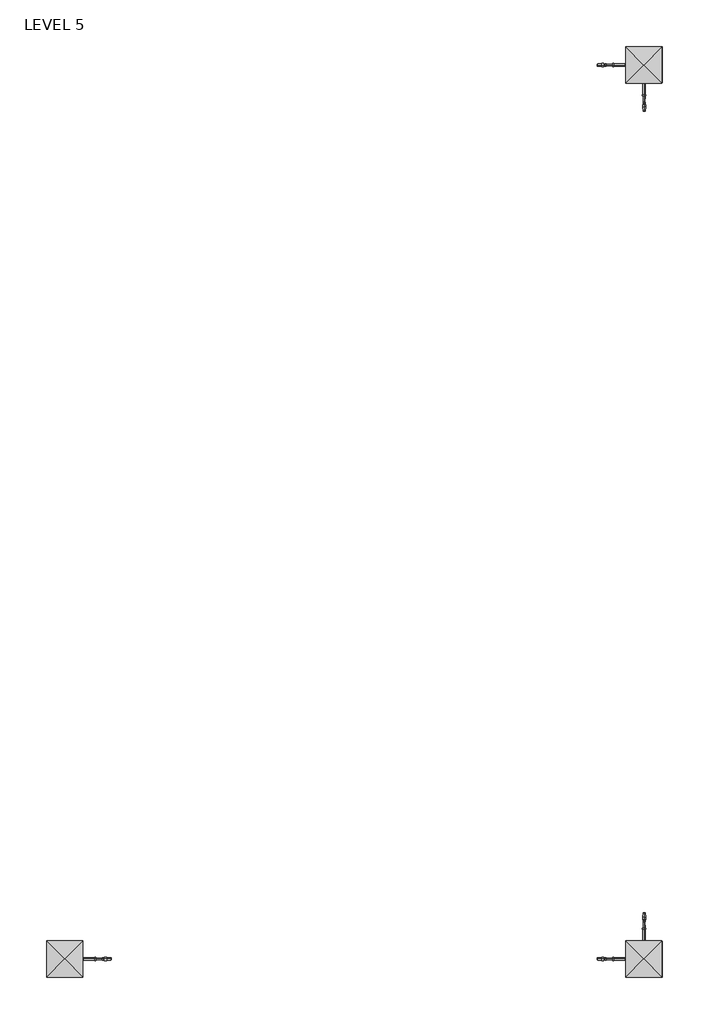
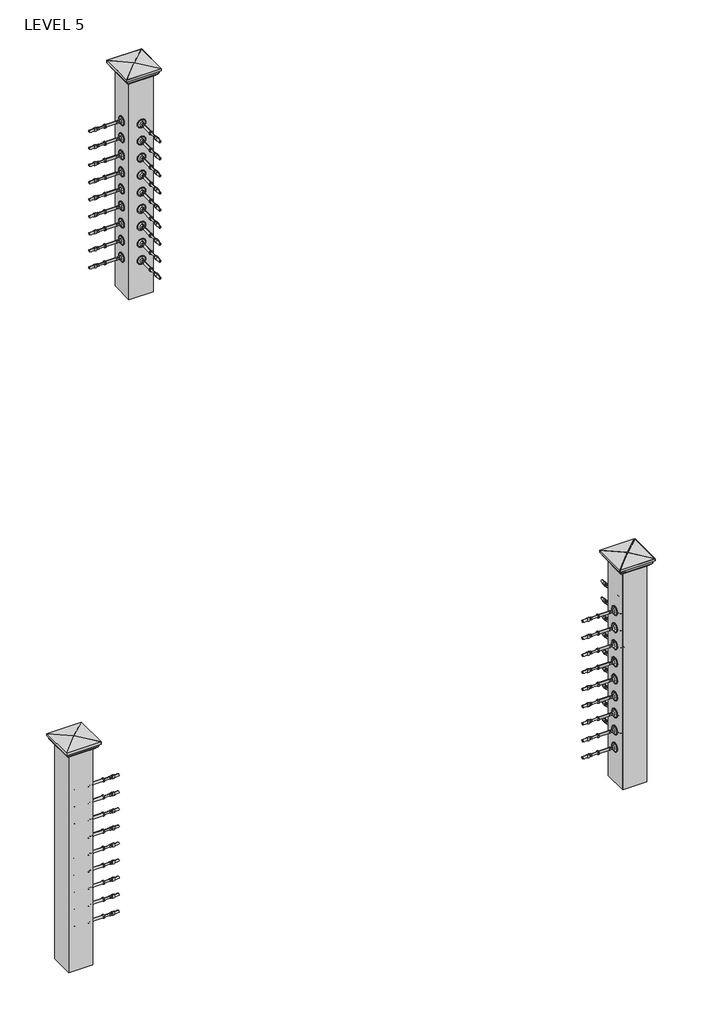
# One storey, incomplete: 5 railings.
"""IFC4 building model written with IfcOpenShell, lengths in millimetres."""

from ifc_helpers import new_model, si_unit, origin, place, context, project, spatial, transform, mapped, element, save
from components import railing_eec3041f, railing_faee88ab, railing_03d107fd, railing_2a3e4459, railing_6aa3b354, railing_0dcd67a9, railing_44fb17b9, railing_71b8d278, railing_03ae49d9, railing_364acd38, railing_e89b9eff, railing_0d87ca35, railing_b5b5f7ef, railing_fa4fd80e, railing_382be00a, railing_984af080, railing_0356c640, railing_9079da3a, railing_d52af2fc, railing_73b240f5

model = new_model("IFC4")

# Units and contexts
model_context = context("Model", 3, world=origin())
ifc_project = project(units=[si_unit("LENGTHUNIT", "METRE", prefix="MILLI")], contexts=[model_context])

# Site, building, storey
site = spatial("IfcSite", under=ifc_project)
building = spatial("IfcBuilding", under=site)
storey = spatial("IfcBuildingStorey", under=building, Name="LEVEL 5", Elevation=32511.5039062)

# Railings
placement = place(None, origin())
railing_shape = railing_eec3041f(model_context)
railing_2_shape = railing_faee88ab(model_context)
railing_3_shape = railing_03d107fd(model_context)
railing_4_shape = railing_2a3e4459(model_context)
element("IfcRailing", 1, ObjectType="RAILEASY CABLE RAILING CORNER TENSIONERS STAIR", at=placement, inside=storey, context=model_context, shape_type="MappedRepresentation", body=[
    mapped(railing_shape, transform((0.0, 0.0, 0.0), x_axis=(1.0, 0.0, 0.0), y_axis=(0.0, 1.0, 0.0), z_axis=(0.0, 0.0, 1.0))),
    mapped(railing_2_shape, transform((0.0, 0.0, 0.0), x_axis=(1.0, 0.0, 0.0), y_axis=(0.0, 1.0, 0.0), z_axis=(0.0, 0.0, 1.0))),
    mapped(railing_3_shape, transform((0.0, 0.0, 0.0), x_axis=(1.0, 0.0, 0.0), y_axis=(0.0, 1.0, 0.0), z_axis=(0.0, 0.0, 1.0))),
    mapped(railing_4_shape, transform((0.0, 0.0, 0.0), x_axis=(1.0, 0.0, 0.0), y_axis=(0.0, 1.0, 0.0), z_axis=(0.0, 0.0, 1.0))),
])
railing_5_shape = railing_6aa3b354(model_context)
railing_6_shape = railing_0dcd67a9(model_context)
railing_7_shape = railing_44fb17b9(model_context)
railing_8_shape = railing_71b8d278(model_context)
element("IfcRailing", 2, ObjectType="RAILEASY CABLE RAILING CORNER TENSIONERS STAIR", at=placement, inside=storey, context=model_context, shape_type="MappedRepresentation", body=[
    mapped(railing_5_shape, transform((0.0, 0.0, 0.0), x_axis=(1.0, 0.0, 0.0), y_axis=(0.0, 1.0, 0.0), z_axis=(0.0, 0.0, 1.0))),
    mapped(railing_6_shape, transform((0.0, 0.0, 0.0), x_axis=(1.0, 0.0, 0.0), y_axis=(0.0, 1.0, 0.0), z_axis=(0.0, 0.0, 1.0))),
    mapped(railing_7_shape, transform((0.0, 0.0, 0.0), x_axis=(1.0, 0.0, 0.0), y_axis=(0.0, 1.0, 0.0), z_axis=(0.0, 0.0, 1.0))),
    mapped(railing_8_shape, transform((0.0, 0.0, 0.0), x_axis=(1.0, 0.0, 0.0), y_axis=(0.0, 1.0, 0.0), z_axis=(0.0, 0.0, 1.0))),
])
railing_9_shape = railing_03ae49d9(model_context)
railing_10_shape = railing_364acd38(model_context)
railing_11_shape = railing_e89b9eff(model_context)
railing_12_shape = railing_0d87ca35(model_context)
element("IfcRailing", 3, ObjectType="RAILEASY CABLE RAILING CORNER TENSIONERS STAIR", at=placement, inside=storey, context=model_context, shape_type="MappedRepresentation", body=[
    mapped(railing_9_shape, transform((0.0, 0.0, 0.0), x_axis=(1.0, 0.0, 0.0), y_axis=(0.0, 1.0, 0.0), z_axis=(0.0, 0.0, 1.0))),
    mapped(railing_10_shape, transform((0.0, 0.0, 0.0), x_axis=(1.0, 0.0, 0.0), y_axis=(0.0, 1.0, 0.0), z_axis=(0.0, 0.0, 1.0))),
    mapped(railing_11_shape, transform((0.0, 0.0, 0.0), x_axis=(1.0, 0.0, 0.0), y_axis=(0.0, 1.0, 0.0), z_axis=(0.0, 0.0, 1.0))),
    mapped(railing_12_shape, transform((0.0, 0.0, 0.0), x_axis=(1.0, 0.0, 0.0), y_axis=(0.0, 1.0, 0.0), z_axis=(0.0, 0.0, 1.0))),
])
railing_13_shape = railing_b5b5f7ef(model_context)
railing_14_shape = railing_fa4fd80e(model_context)
railing_15_shape = railing_382be00a(model_context)
railing_16_shape = railing_984af080(model_context)
element("IfcRailing", 4, ObjectType="RAILEASY CABLE RAILING CORNER TENSIONERS STAIR", at=placement, inside=storey, context=model_context, shape_type="MappedRepresentation", body=[
    mapped(railing_13_shape, transform((0.0, 0.0, 0.0), x_axis=(1.0, 0.0, 0.0), y_axis=(0.0, 1.0, 0.0), z_axis=(0.0, 0.0, 1.0))),
    mapped(railing_14_shape, transform((0.0, 0.0, 0.0), x_axis=(1.0, 0.0, 0.0), y_axis=(0.0, 1.0, 0.0), z_axis=(0.0, 0.0, 1.0))),
    mapped(railing_15_shape, transform((0.0, 0.0, 0.0), x_axis=(1.0, 0.0, 0.0), y_axis=(0.0, 1.0, 0.0), z_axis=(0.0, 0.0, 1.0))),
    mapped(railing_16_shape, transform((0.0, 0.0, 0.0), x_axis=(1.0, 0.0, 0.0), y_axis=(0.0, 1.0, 0.0), z_axis=(0.0, 0.0, 1.0))),
])
railing_17_shape = railing_0356c640(model_context)
railing_18_shape = railing_9079da3a(model_context)
railing_19_shape = railing_d52af2fc(model_context)
railing_20_shape = railing_73b240f5(model_context)
element("IfcRailing", 5, ObjectType="RAILEASY CABLE RAILING CORNER TENSIONERS STAIR", at=placement, inside=storey, context=model_context, shape_type="MappedRepresentation", body=[
    mapped(railing_17_shape, transform((0.0, 0.0, 0.0), x_axis=(1.0, 0.0, 0.0), y_axis=(0.0, 1.0, 0.0), z_axis=(0.0, 0.0, 1.0))),
    mapped(railing_18_shape, transform((0.0, 0.0, 0.0), x_axis=(1.0, 0.0, 0.0), y_axis=(0.0, 1.0, 0.0), z_axis=(0.0, 0.0, 1.0))),
    mapped(railing_19_shape, transform((0.0, 0.0, 0.0), x_axis=(1.0, 0.0, 0.0), y_axis=(0.0, 1.0, 0.0), z_axis=(0.0, 0.0, 1.0))),
    mapped(railing_20_shape, transform((0.0, 0.0, 0.0), x_axis=(1.0, 0.0, 0.0), y_axis=(0.0, 1.0, 0.0), z_axis=(0.0, 0.0, 1.0))),
])

save(model, "model.ifc")
